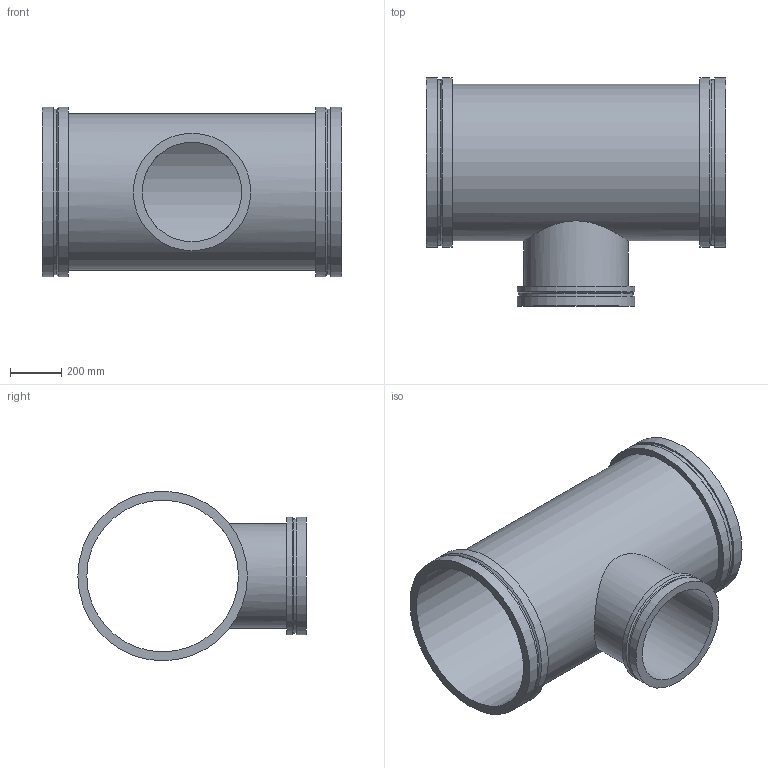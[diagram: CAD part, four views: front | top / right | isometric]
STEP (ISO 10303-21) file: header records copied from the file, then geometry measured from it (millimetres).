
FILE_DESCRIPTION(/* description */ ('VIC REDUCING TEE No W025 VR','CAx-IF Rec.Pracs.---Representation and Presentation of Product Manufacturing Information (PMI)---4.0---2014-10-13'),/* implementation_level */ '2;1');
FILE_NAME(/* name */ 'C:\Users\kkamble\AppData\Roaming\Autodesk\ApplicationPlugins\Back Up\Victaulic_Vic-Ring_Tee Reducing_No W25 VR (AGR)\Victaulic_Vic-Ring_Tee Reducing_No W25 VR (AGR)_24.0x16.0 (600x400).stp',/* time_stamp */ '2020-09-10T11:53:07+05:00',/* author */ ('mchristi'),/* organization */ ('Victaulic'),/* preprocessor_version */ 'ST-DEVELOPER v17.2',/* originating_system */ 'Autodesk Inventor 2019',/* authorisation */ '');
FILE_SCHEMA (('AP242_MANAGED_MODEL_BASED_3D_ENGINEERING_MIM_LF { 1 0 10303 442 1 1 4 }'));
Length unit declared in the file: inch
Products named in the file (1): W25 VR-24.0x16.0
Bounding box: 1168.4 x 889 x 660.4 mm (x, y, z)
Volume: 35532994.2 mm3; surface area: 5295182.4 mm2
Topology: 1 solids, 1 shells, 25 faces, 68 edges, 52 vertices
Faces by surface type: cylinder 13, plane 9, cone 3
Full cylindrical faces by diameter (mm): 387.35 x1, 406.4 x1, 444.5 x1, 457.2 x2, 590.55 x1, 609.6 x1, 645.922 x2, 660.4 x4
Entity records: 1203 total; most frequent: CARTESIAN_POINT 359, DIRECTION 190, ORIENTED_EDGE 136, AXIS2_PLACEMENT_3D 87, EDGE_CURVE 68, VERTEX_POINT 52, CIRCLE 48, EDGE_LOOP 36
